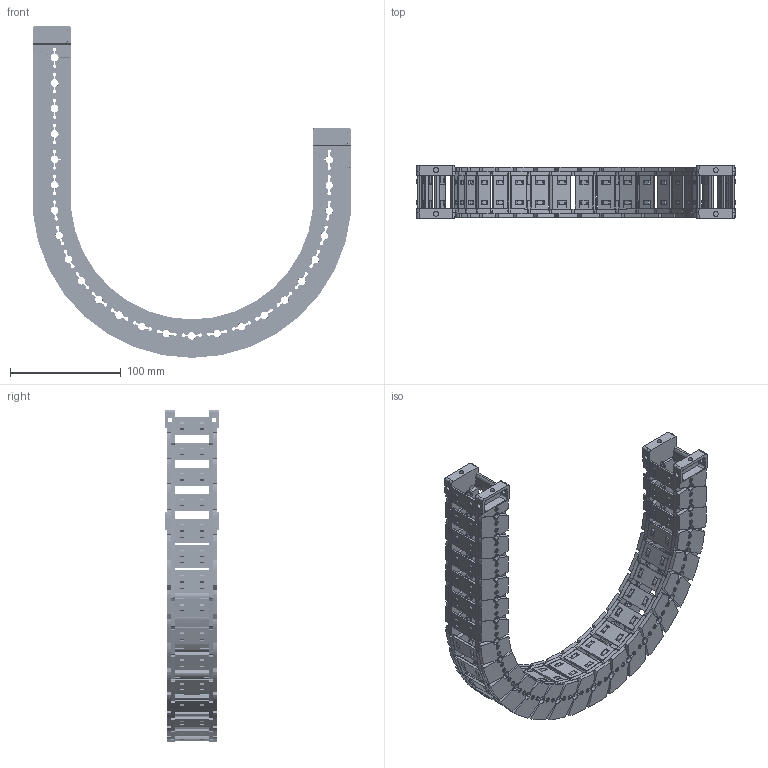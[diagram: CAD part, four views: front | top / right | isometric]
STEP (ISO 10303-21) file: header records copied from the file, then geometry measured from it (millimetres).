
FILE_DESCRIPTION((''),'2;1');
FILE_NAME('JY-28X30-R125_ASM','2026-03-25T20:08:16',('admin'),(''),'CREO PARAMETRIC BY PTC INC, 2021023','CREO PARAMETRIC BY PTC INC, 2021023','');
FILE_SCHEMA(('CONFIG_CONTROL_DESIGN'));
Length unit declared in the file: millimetre
Products named in the file (11): 28XL-L; 25-35XL-YP; 28XL-R; ASM0001_ASM; 28-LTT-A-L; 28-LTT-A-R; 28XL-LTT-A_ASM; 28-LTT-B-L; 28-LTT-B-R; 28XL-LTT-B_ASM; JY-28X30-R125_ASM
Assembly tree (38 placements, depth 3):
  JY-28X30-R125_ASM
    ASM0001_ASM  x24
      28XL-L
      25-35XL-YP
      28XL-R
    28XL-LTT-A_ASM
      28-LTT-A-L
      25-35XL-YP  x2
      28-LTT-A-R
    28XL-LTT-B_ASM
      28-LTT-B-L
      25-35XL-YP  x2
      28-LTT-B-R
Bounding box: 287.57 x 48.5 x 299.79 mm (x, y, z)
Volume: 339518.4 mm3; surface area: 248074.8 mm2
Topology: 104 solids, 104 shells, 8438 faces, 25084 edges, 16750 vertices
Faces by surface type: plane 5532, cone 1522, cylinder 1210, bspline 174
Entity records: 29143 total; most frequent: CARTESIAN_POINT 9496, ORIENTED_EDGE 4352, DIRECTION 3667, EDGE_CURVE 2176, VERTEX_POINT 1454, VECTOR 1365, LINE 1365, AXIS2_PLACEMENT_3D 1151
